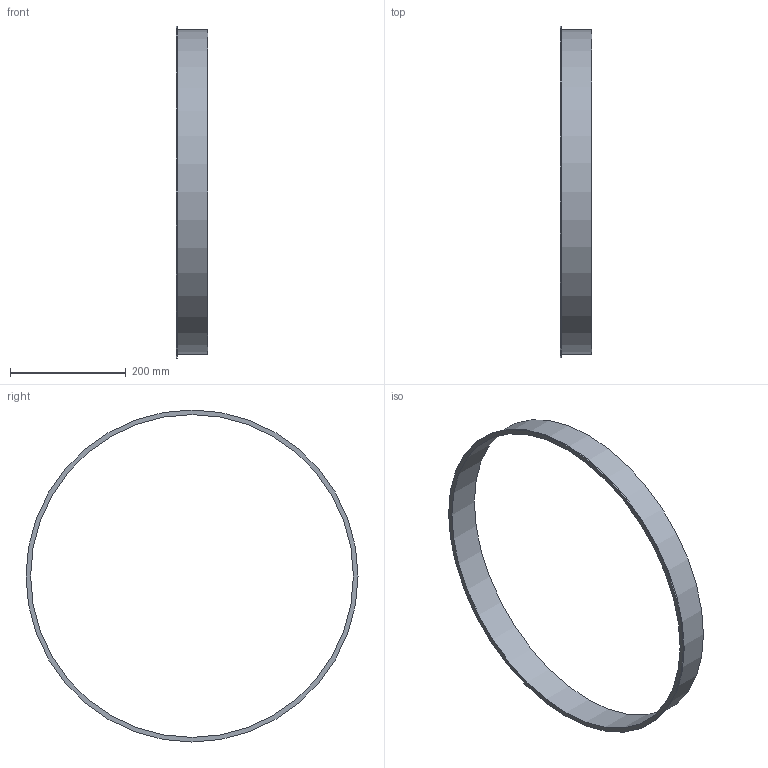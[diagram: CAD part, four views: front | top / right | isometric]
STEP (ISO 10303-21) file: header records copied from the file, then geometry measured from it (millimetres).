
FILE_DESCRIPTION((''),'2;1');
FILE_NAME('U:\Wolfgang\Marcel-3D\fertig\Kapitel 1\5621012.stp','2010-05-31T12:38:47',('TK2'),(''),'Autodesk Inventor 2010','Autodesk Inventor 2010','');
FILE_SCHEMA(('AUTOMOTIVE_DESIGN { 1 0 10303 214 1 1 1 1 }'));
Length unit declared in the file: millimetre
Products named in the file (1): 5621012
Bounding box: 55 x 574 x 574 mm (x, y, z)
Volume: 214935.2 mm3; surface area: 222047.8 mm2
Topology: 1 solids, 1 shells, 6 faces, 9 edges, 6 vertices
Faces by surface type: cylinder 3, plane 3
Full cylindrical faces by diameter (mm): 558 x1, 562 x1, 574 x1
Entity records: 154 total; most frequent: DIRECTION 26, CARTESIAN_POINT 19, AXIS2_PLACEMENT_3D 13, ORIENTED_EDGE 12, EDGE_LOOP 12, VERTEX_POINT 6, CIRCLE 6, EDGE_CURVE 6
